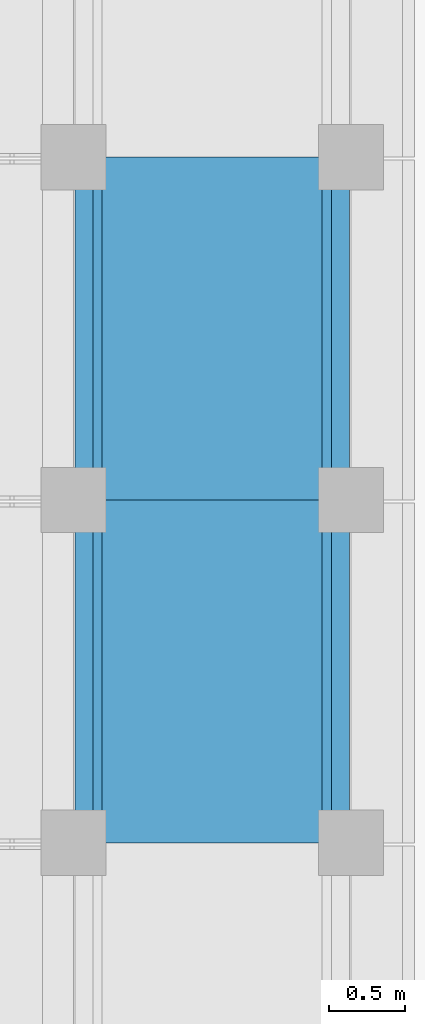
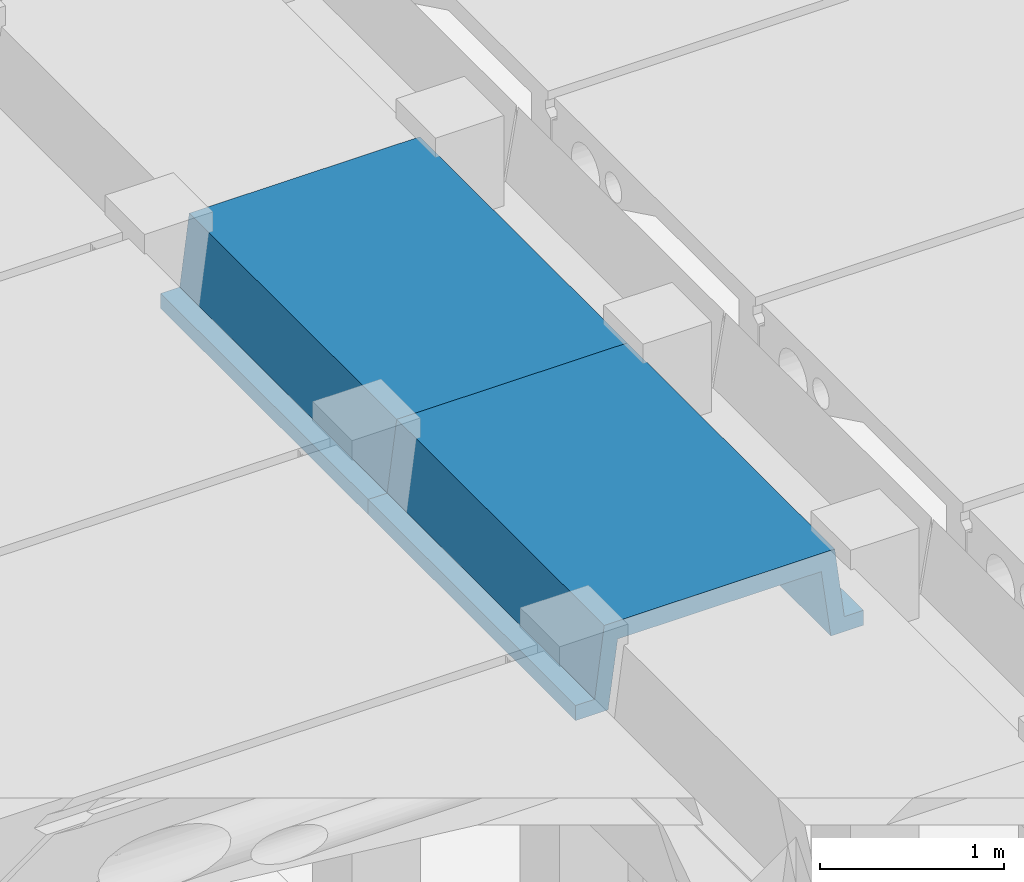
# One storey, part 15 of 25: 2 beams.
"""IFC2X3 building model written with IfcOpenShell, lengths in millimetres."""

from ifc_helpers import new_model, entity, si_unit, converted_unit, derived_unit, direction, frame, origin, place, context, subcontext, project, spatial, polyline, outline, extrude, material, type_object, element, save


model = new_model("IFC2X3")

# Units and contexts
model_context = context("Model", 3, precision=0.01, world=origin(), true_north=direction((6.12303176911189e-17, 1.0)))
body_context = subcontext(model_context, "Body", "Model", "MODEL_VIEW")
ifc_project = project(units=[si_unit("LENGTHUNIT", "METRE", prefix="MILLI"), si_unit("AREAUNIT", "SQUARE_METRE"), si_unit("VOLUMEUNIT", "CUBIC_METRE"), converted_unit("PLANEANGLEUNIT", "DEGREE", entity("IfcRatioMeasure", 0.0174532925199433), si_unit("PLANEANGLEUNIT", "RADIAN"), dimensions=[0, 0, 0, 0, 0, 0, 0]), si_unit("MASSUNIT", "GRAM", prefix="KILO"), derived_unit("MASSDENSITYUNIT", [(si_unit("MASSUNIT", "GRAM", prefix="KILO"), 1), (si_unit("LENGTHUNIT", "METRE"), -3)]), derived_unit("MOMENTOFINERTIAUNIT", [(si_unit("LENGTHUNIT", "METRE"), 4)]), si_unit("TIMEUNIT", "SECOND"), si_unit("FREQUENCYUNIT", "HERTZ"), si_unit("THERMODYNAMICTEMPERATUREUNIT", "DEGREE_CELSIUS"), derived_unit("THERMALTRANSMITTANCEUNIT", [(si_unit("MASSUNIT", "GRAM", prefix="KILO"), 1), (si_unit("THERMODYNAMICTEMPERATUREUNIT", "KELVIN"), -1), (si_unit("TIMEUNIT", "SECOND"), -3)]), derived_unit("VOLUMETRICFLOWRATEUNIT", [(si_unit("LENGTHUNIT", "METRE"), 3), (si_unit("TIMEUNIT", "SECOND"), -1)]), si_unit("ELECTRICCURRENTUNIT", "AMPERE"), si_unit("ELECTRICVOLTAGEUNIT", "VOLT"), si_unit("POWERUNIT", "WATT"), si_unit("FORCEUNIT", "NEWTON", prefix="KILO"), si_unit("ILLUMINANCEUNIT", "LUX"), si_unit("LUMINOUSFLUXUNIT", "LUMEN"), si_unit("LUMINOUSINTENSITYUNIT", "CANDELA"), derived_unit("USERDEFINED", [(si_unit("MASSUNIT", "GRAM", prefix="KILO"), -1), (si_unit("LENGTHUNIT", "METRE"), -2), (si_unit("TIMEUNIT", "SECOND"), 3), (si_unit("LUMINOUSFLUXUNIT", "LUMEN"), 1)]), derived_unit("LINEARVELOCITYUNIT", [(si_unit("LENGTHUNIT", "METRE"), 1), (si_unit("TIMEUNIT", "SECOND"), -1)]), si_unit("PRESSUREUNIT", "PASCAL"), derived_unit("USERDEFINED", [(si_unit("LENGTHUNIT", "METRE"), -2), (si_unit("MASSUNIT", "GRAM", prefix="KILO"), 1), (si_unit("TIMEUNIT", "SECOND"), -2)]), derived_unit("LINEARFORCEUNIT", [(si_unit("MASSUNIT", "GRAM", prefix="KILO"), 1), (si_unit("LENGTHUNIT", "METRE"), 1), (si_unit("TIMEUNIT", "SECOND"), -2), (si_unit("LENGTHUNIT", "METRE"), -1)]), derived_unit("PLANARFORCEUNIT", [(si_unit("MASSUNIT", "GRAM", prefix="KILO"), 1), (si_unit("LENGTHUNIT", "METRE"), 1), (si_unit("TIMEUNIT", "SECOND"), -2), (si_unit("LENGTHUNIT", "METRE"), -2)])], contexts=[model_context])

# Site, building, storey
site_placement = place(None, frame((10627.5135316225, 21939.0796949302, 0.0)))
site = spatial("IfcSite", under=ifc_project, at=site_placement, Name="Default", CompositionType="ELEMENT")
building_placement = place(site_placement, origin())
building = spatial("IfcBuilding", under=site, at=building_placement, CompositionType="ELEMENT")
storey_placement = place(building_placement, origin())
storey = spatial("IfcBuildingStorey", under=building, at=storey_placement, Name="RDC", CompositionType="ELEMENT", Elevation=0.0)

# Beams
ifc_material = material(Name="Concrete, Precast Smooth, Light Grey")
beam_type = type_object("IfcBeamType", Name="Poutre petite:Poutre petite", PredefinedType="NOTDEFINED")
for number, where, z_axis, x_axis, name in (
    (1, (52487.4864683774, -8379.07969493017, 3530.0), (0.0, 0.0, 1.0), (0.0, 1.0, 0.0), "Poutre petite:Poutre petite"),
    (2, (52487.4864683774, -10639.0796949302, 3530.0), (0.0, 0.0, 1.0), (0.0, 1.0, 0.0), "Poutre petite:Poutre petite"),
):
    element("IfcBeam", number, at=place(storey_placement, frame(where, z_axis=z_axis, x_axis=x_axis)), inside=storey, type_object=beam_type, material=ifc_material, Name=name, ObjectType="Poutre petite:Poutre petite", context=body_context, shape_type="SweptSolid", body=[
        extrude(outline(polyline([(103.333217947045, -905.014058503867), (203.333564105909, -905.014058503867), (203.333564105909, -700.0135432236), (-246.666782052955, -640.013497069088), (-246.666782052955, 640.013684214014), (203.333564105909, 700.013730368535), (203.333564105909, 905.013684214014), (103.333217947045, 905.013684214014), (103.333217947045, 785.013684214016), (-366.666782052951, 725.01368421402), (-366.666782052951, -725.013497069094), (103.333217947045, -785.013497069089), (103.333217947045, -905.014058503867)])), frame((0.0, 0.000187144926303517, -366.666782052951), z_axis=(1.0, 0.0, 0.0), x_axis=(0.0, 0.0, -1.0)), (0.0, 0.0, 1.0), 2260.0),
    ])

save(model, "model.ifc")
